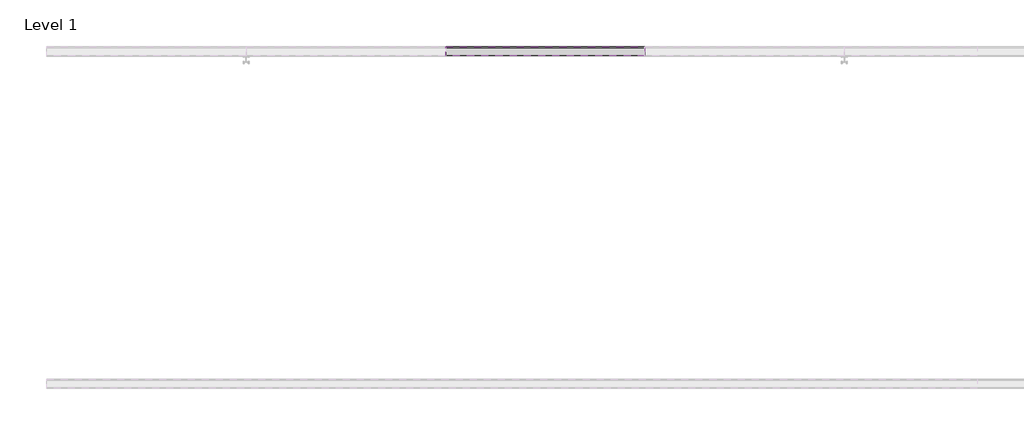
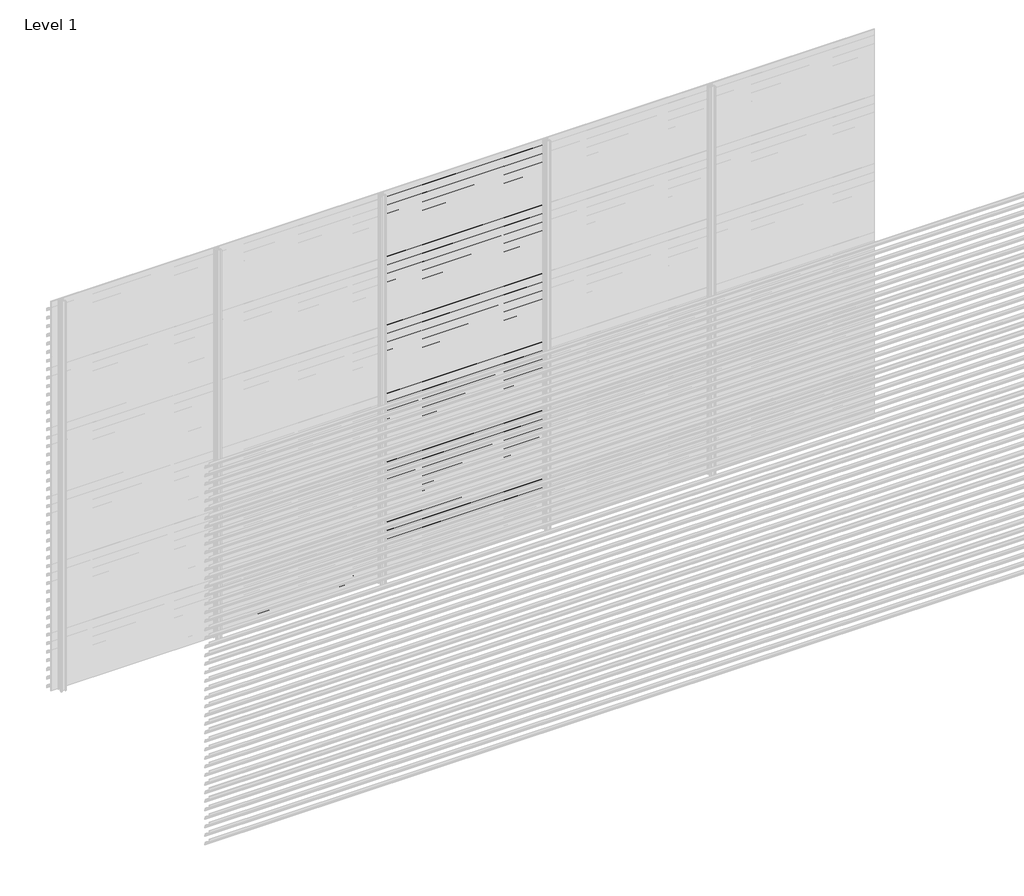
# One storey, part 134 of 540: 43 proxies.
"""IFC4 building model written with IfcOpenShell, lengths in millimetres."""

from ifc_helpers import new_model, si_unit, point, frame, frame_2d, origin, place, context, project, spatial, polyline, circle_curve, trimmed, segment, composite_curve, outline, extrude, element, save

model = new_model("IFC4")

# Units and contexts
model_context = context("Model", 3, world=origin())
ifc_project = project(units=[si_unit("LENGTHUNIT", "METRE", prefix="MILLI")], contexts=[model_context])

# Site, building, storey
site = spatial("IfcSite", under=ifc_project)
building = spatial("IfcBuilding", under=site)
storey = spatial("IfcBuildingStorey", under=building, Name="Level 1", Elevation=0.0)

# Proxies
placement = place(None, origin())
element("IfcBuildingElementProxy", 1, Name="Wall Sweeps", at=placement, inside=storey, context=model_context, shape_type="SweptSolid", body=[
    extrude(outline(composite_curve([segment(trimmed(circle_curve(frame_2d((21513.609548, 61.7676769)), 26.4944656), [point((21530.5717655, 82.1205608))], [point((21540.0540136, 63.3946208))], False, "CARTESIAN"), True, "CONTINUOUS"), segment(polyline([(21540.0540136, 63.3946208), (21540.0540136, 55.5), (21538.8040136, 56.2216933), (21538.8040136, 61.7676769)]), True, "CONTINUOUS"), segment(trimmed(circle_curve(frame_2d((21513.609548, 61.7676769)), 25.1944656), [point((21538.8040136, 61.7676769))], [point((21529.7815085, 81.086807))], True, "CARTESIAN"), True, "CONTINUOUS"), segment(polyline([(21529.7815085, 81.086807), (21485.0540136, 112.3158044), (21485.0540136, 132.0), (21486.3040136, 132.0), (21486.3040136, 113.0285629), (21530.5717655, 82.1205608)]), True, "CONTINUOUS")], self_intersect=False)), frame((90666.6208099, 0.0, 0.0), z_axis=(1.0, 0.0, 0.0), x_axis=(0.0, 1.0, 0.0)), (0.0, 0.0, 1.0), 1199.9999999),
])
element("IfcBuildingElementProxy", 2, Name="Wall Sweeps", at=placement, inside=storey, context=model_context, shape_type="SweptSolid", body=[
    extrude(outline(composite_curve([segment(trimmed(circle_curve(frame_2d((21513.609548, -4.2323231)), 26.4944656), [point((21530.5717655, 16.1205608))], [point((21540.0540136, -2.6053792))], False, "CARTESIAN"), True, "CONTINUOUS"), segment(polyline([(21540.0540136, -2.6053792), (21540.0540136, -10.5), (21538.8040136, -9.7783067), (21538.8040136, -4.2323231)]), True, "CONTINUOUS"), segment(trimmed(circle_curve(frame_2d((21513.609548, -4.2323231)), 25.1944656), [point((21538.8040136, -4.2323231))], [point((21529.7815085, 15.086807))], True, "CARTESIAN"), True, "CONTINUOUS"), segment(polyline([(21529.7815085, 15.086807), (21485.0540136, 46.3158044), (21485.0540136, 66.0), (21486.3040136, 66.0), (21486.3040136, 47.0285629), (21530.5717655, 16.1205608)]), True, "CONTINUOUS")], self_intersect=False)), frame((90666.6208099, 0.0, 0.0), z_axis=(1.0, 0.0, 0.0), x_axis=(0.0, 1.0, 0.0)), (0.0, 0.0, 1.0), 1199.9999999),
])
element("IfcBuildingElementProxy", 3, Name="Wall Sweeps", at=placement, inside=storey, context=model_context, shape_type="SweptSolid", body=[
    extrude(outline(composite_curve([segment(trimmed(circle_curve(frame_2d((21513.609548, 2899.7676769)), 26.4944656), [point((21530.5717655, 2920.1205608))], [point((21540.0540136, 2901.3946208))], False, "CARTESIAN"), True, "CONTINUOUS"), segment(polyline([(21540.0540136, 2901.3946208), (21540.0540136, 2893.5), (21538.8040136, 2894.2216933), (21538.8040136, 2899.7676769)]), True, "CONTINUOUS"), segment(trimmed(circle_curve(frame_2d((21513.609548, 2899.7676769)), 25.1944656), [point((21538.8040136, 2899.7676769))], [point((21529.7815085, 2919.086807))], True, "CARTESIAN"), True, "CONTINUOUS"), segment(polyline([(21529.7815085, 2919.086807), (21485.0540136, 2950.3158044), (21485.0540136, 2970.0), (21486.3040136, 2970.0), (21486.3040136, 2951.0285629), (21530.5717655, 2920.1205608)]), True, "CONTINUOUS")], self_intersect=False)), frame((91866.6208097, 0.0, 0.0), z_axis=(1.0, 0.0, 0.0), x_axis=(0.0, 1.0, 0.0)), (0.0, 0.0, 1.0), 1199.9999999),
])
element("IfcBuildingElementProxy", 4, Name="Wall Sweeps", at=placement, inside=storey, context=model_context, shape_type="SweptSolid", body=[
    extrude(outline(composite_curve([segment(trimmed(circle_curve(frame_2d((21513.609548, 2833.7676769)), 26.4944656), [point((21530.5717655, 2854.1205608))], [point((21540.0540136, 2835.3946208))], False, "CARTESIAN"), True, "CONTINUOUS"), segment(polyline([(21540.0540136, 2835.3946208), (21540.0540136, 2827.5), (21538.8040136, 2828.2216933), (21538.8040136, 2833.7676769)]), True, "CONTINUOUS"), segment(trimmed(circle_curve(frame_2d((21513.609548, 2833.7676769)), 25.1944656), [point((21538.8040136, 2833.7676769))], [point((21529.7815085, 2853.086807))], True, "CARTESIAN"), True, "CONTINUOUS"), segment(polyline([(21529.7815085, 2853.086807), (21485.0540136, 2884.3158044), (21485.0540136, 2904.0), (21486.3040136, 2904.0), (21486.3040136, 2885.0285629), (21530.5717655, 2854.1205608)]), True, "CONTINUOUS")], self_intersect=False)), frame((91866.6208097, 0.0, 0.0), z_axis=(1.0, 0.0, 0.0), x_axis=(0.0, 1.0, 0.0)), (0.0, 0.0, 1.0), 1199.9999999),
])
element("IfcBuildingElementProxy", 5, Name="Wall Sweeps", at=placement, inside=storey, context=model_context, shape_type="SweptSolid", body=[
    extrude(outline(composite_curve([segment(trimmed(circle_curve(frame_2d((21513.609548, 2767.7676769)), 26.4944656), [point((21530.5717655, 2788.1205608))], [point((21540.0540136, 2769.3946208))], False, "CARTESIAN"), True, "CONTINUOUS"), segment(polyline([(21540.0540136, 2769.3946208), (21540.0540136, 2761.5), (21538.8040136, 2762.2216933), (21538.8040136, 2767.7676769)]), True, "CONTINUOUS"), segment(trimmed(circle_curve(frame_2d((21513.609548, 2767.7676769)), 25.1944656), [point((21538.8040136, 2767.7676769))], [point((21529.7815085, 2787.086807))], True, "CARTESIAN"), True, "CONTINUOUS"), segment(polyline([(21529.7815085, 2787.086807), (21485.0540136, 2818.3158044), (21485.0540136, 2838.0), (21486.3040136, 2838.0), (21486.3040136, 2819.0285629), (21530.5717655, 2788.1205608)]), True, "CONTINUOUS")], self_intersect=False)), frame((91866.6208097, 0.0, 0.0), z_axis=(1.0, 0.0, 0.0), x_axis=(0.0, 1.0, 0.0)), (0.0, 0.0, 1.0), 1199.9999999),
])
element("IfcBuildingElementProxy", 6, Name="Wall Sweeps", at=placement, inside=storey, context=model_context, shape_type="SweptSolid", body=[
    extrude(outline(composite_curve([segment(trimmed(circle_curve(frame_2d((21513.609548, 2701.7676769)), 26.4944656), [point((21530.5717655, 2722.1205608))], [point((21540.0540136, 2703.3946208))], False, "CARTESIAN"), True, "CONTINUOUS"), segment(polyline([(21540.0540136, 2703.3946208), (21540.0540136, 2695.5), (21538.8040136, 2696.2216933), (21538.8040136, 2701.7676769)]), True, "CONTINUOUS"), segment(trimmed(circle_curve(frame_2d((21513.609548, 2701.7676769)), 25.1944656), [point((21538.8040136, 2701.7676769))], [point((21529.7815085, 2721.086807))], True, "CARTESIAN"), True, "CONTINUOUS"), segment(polyline([(21529.7815085, 2721.086807), (21485.0540136, 2752.3158044), (21485.0540136, 2772.0), (21486.3040136, 2772.0), (21486.3040136, 2753.0285629), (21530.5717655, 2722.1205608)]), True, "CONTINUOUS")], self_intersect=False)), frame((91866.6208097, 0.0, 0.0), z_axis=(1.0, 0.0, 0.0), x_axis=(0.0, 1.0, 0.0)), (0.0, 0.0, 1.0), 1199.9999999),
])
element("IfcBuildingElementProxy", 7, Name="Wall Sweeps", at=placement, inside=storey, context=model_context, shape_type="SweptSolid", body=[
    extrude(outline(composite_curve([segment(trimmed(circle_curve(frame_2d((21513.609548, 2635.7676769)), 26.4944656), [point((21530.5717655, 2656.1205608))], [point((21540.0540136, 2637.3946208))], False, "CARTESIAN"), True, "CONTINUOUS"), segment(polyline([(21540.0540136, 2637.3946208), (21540.0540136, 2629.5), (21538.8040136, 2630.2216933), (21538.8040136, 2635.7676769)]), True, "CONTINUOUS"), segment(trimmed(circle_curve(frame_2d((21513.609548, 2635.7676769)), 25.1944656), [point((21538.8040136, 2635.7676769))], [point((21529.7815085, 2655.086807))], True, "CARTESIAN"), True, "CONTINUOUS"), segment(polyline([(21529.7815085, 2655.086807), (21485.0540136, 2686.3158044), (21485.0540136, 2706.0), (21486.3040136, 2706.0), (21486.3040136, 2687.0285629), (21530.5717655, 2656.1205608)]), True, "CONTINUOUS")], self_intersect=False)), frame((91866.6208097, 0.0, 0.0), z_axis=(1.0, 0.0, 0.0), x_axis=(0.0, 1.0, 0.0)), (0.0, 0.0, 1.0), 1199.9999999),
])
element("IfcBuildingElementProxy", 8, Name="Wall Sweeps", at=placement, inside=storey, context=model_context, shape_type="SweptSolid", body=[
    extrude(outline(composite_curve([segment(trimmed(circle_curve(frame_2d((21513.609548, 2569.7676769)), 26.4944656), [point((21530.5717655, 2590.1205608))], [point((21540.0540136, 2571.3946208))], False, "CARTESIAN"), True, "CONTINUOUS"), segment(polyline([(21540.0540136, 2571.3946208), (21540.0540136, 2563.5), (21538.8040136, 2564.2216933), (21538.8040136, 2569.7676769)]), True, "CONTINUOUS"), segment(trimmed(circle_curve(frame_2d((21513.609548, 2569.7676769)), 25.1944656), [point((21538.8040136, 2569.7676769))], [point((21529.7815085, 2589.086807))], True, "CARTESIAN"), True, "CONTINUOUS"), segment(polyline([(21529.7815085, 2589.086807), (21485.0540136, 2620.3158044), (21485.0540136, 2640.0), (21486.3040136, 2640.0), (21486.3040136, 2621.0285629), (21530.5717655, 2590.1205608)]), True, "CONTINUOUS")], self_intersect=False)), frame((91866.6208097, 0.0, 0.0), z_axis=(1.0, 0.0, 0.0), x_axis=(0.0, 1.0, 0.0)), (0.0, 0.0, 1.0), 1199.9999999),
])
element("IfcBuildingElementProxy", 9, Name="Wall Sweeps", at=placement, inside=storey, context=model_context, shape_type="SweptSolid", body=[
    extrude(outline(composite_curve([segment(trimmed(circle_curve(frame_2d((21513.609548, 2503.7676769)), 26.4944656), [point((21530.5717655, 2524.1205608))], [point((21540.0540136, 2505.3946208))], False, "CARTESIAN"), True, "CONTINUOUS"), segment(polyline([(21540.0540136, 2505.3946208), (21540.0540136, 2497.5), (21538.8040136, 2498.2216933), (21538.8040136, 2503.7676769)]), True, "CONTINUOUS"), segment(trimmed(circle_curve(frame_2d((21513.609548, 2503.7676769)), 25.1944656), [point((21538.8040136, 2503.7676769))], [point((21529.7815085, 2523.086807))], True, "CARTESIAN"), True, "CONTINUOUS"), segment(polyline([(21529.7815085, 2523.086807), (21485.0540136, 2554.3158044), (21485.0540136, 2574.0), (21486.3040136, 2574.0), (21486.3040136, 2555.0285629), (21530.5717655, 2524.1205608)]), True, "CONTINUOUS")], self_intersect=False)), frame((91866.6208097, 0.0, 0.0), z_axis=(1.0, 0.0, 0.0), x_axis=(0.0, 1.0, 0.0)), (0.0, 0.0, 1.0), 1199.9999999),
])
element("IfcBuildingElementProxy", 10, Name="Wall Sweeps", at=placement, inside=storey, context=model_context, shape_type="SweptSolid", body=[
    extrude(outline(composite_curve([segment(trimmed(circle_curve(frame_2d((21513.609548, 2437.7676769)), 26.4944656), [point((21530.5717655, 2458.1205608))], [point((21540.0540136, 2439.3946208))], False, "CARTESIAN"), True, "CONTINUOUS"), segment(polyline([(21540.0540136, 2439.3946208), (21540.0540136, 2431.5), (21538.8040136, 2432.2216933), (21538.8040136, 2437.7676769)]), True, "CONTINUOUS"), segment(trimmed(circle_curve(frame_2d((21513.609548, 2437.7676769)), 25.1944656), [point((21538.8040136, 2437.7676769))], [point((21529.7815085, 2457.086807))], True, "CARTESIAN"), True, "CONTINUOUS"), segment(polyline([(21529.7815085, 2457.086807), (21485.0540136, 2488.3158044), (21485.0540136, 2508.0), (21486.3040136, 2508.0), (21486.3040136, 2489.0285629), (21530.5717655, 2458.1205608)]), True, "CONTINUOUS")], self_intersect=False)), frame((91866.6208097, 0.0, 0.0), z_axis=(1.0, 0.0, 0.0), x_axis=(0.0, 1.0, 0.0)), (0.0, 0.0, 1.0), 1199.9999999),
])
element("IfcBuildingElementProxy", 11, Name="Wall Sweeps", at=placement, inside=storey, context=model_context, shape_type="SweptSolid", body=[
    extrude(outline(composite_curve([segment(trimmed(circle_curve(frame_2d((21513.609548, 2371.7676769)), 26.4944656), [point((21530.5717655, 2392.1205608))], [point((21540.0540136, 2373.3946208))], False, "CARTESIAN"), True, "CONTINUOUS"), segment(polyline([(21540.0540136, 2373.3946208), (21540.0540136, 2365.5), (21538.8040136, 2366.2216933), (21538.8040136, 2371.7676769)]), True, "CONTINUOUS"), segment(trimmed(circle_curve(frame_2d((21513.609548, 2371.7676769)), 25.1944656), [point((21538.8040136, 2371.7676769))], [point((21529.7815085, 2391.086807))], True, "CARTESIAN"), True, "CONTINUOUS"), segment(polyline([(21529.7815085, 2391.086807), (21485.0540136, 2422.3158044), (21485.0540136, 2442.0), (21486.3040136, 2442.0), (21486.3040136, 2423.0285629), (21530.5717655, 2392.1205608)]), True, "CONTINUOUS")], self_intersect=False)), frame((91866.6208097, 0.0, 0.0), z_axis=(1.0, 0.0, 0.0), x_axis=(0.0, 1.0, 0.0)), (0.0, 0.0, 1.0), 1199.9999999),
])
element("IfcBuildingElementProxy", 12, Name="Wall Sweeps", at=placement, inside=storey, context=model_context, shape_type="SweptSolid", body=[
    extrude(outline(composite_curve([segment(trimmed(circle_curve(frame_2d((21513.609548, 2305.7676769)), 26.4944656), [point((21530.5717655, 2326.1205608))], [point((21540.0540136, 2307.3946208))], False, "CARTESIAN"), True, "CONTINUOUS"), segment(polyline([(21540.0540136, 2307.3946208), (21540.0540136, 2299.5), (21538.8040136, 2300.2216933), (21538.8040136, 2305.7676769)]), True, "CONTINUOUS"), segment(trimmed(circle_curve(frame_2d((21513.609548, 2305.7676769)), 25.1944656), [point((21538.8040136, 2305.7676769))], [point((21529.7815085, 2325.086807))], True, "CARTESIAN"), True, "CONTINUOUS"), segment(polyline([(21529.7815085, 2325.086807), (21485.0540136, 2356.3158044), (21485.0540136, 2376.0), (21486.3040136, 2376.0), (21486.3040136, 2357.0285629), (21530.5717655, 2326.1205608)]), True, "CONTINUOUS")], self_intersect=False)), frame((91866.6208097, 0.0, 0.0), z_axis=(1.0, 0.0, 0.0), x_axis=(0.0, 1.0, 0.0)), (0.0, 0.0, 1.0), 1199.9999999),
])
element("IfcBuildingElementProxy", 13, Name="Wall Sweeps", at=placement, inside=storey, context=model_context, shape_type="SweptSolid", body=[
    extrude(outline(composite_curve([segment(trimmed(circle_curve(frame_2d((21513.609548, 2239.7676769)), 26.4944656), [point((21530.5717655, 2260.1205608))], [point((21540.0540136, 2241.3946208))], False, "CARTESIAN"), True, "CONTINUOUS"), segment(polyline([(21540.0540136, 2241.3946208), (21540.0540136, 2233.5), (21538.8040136, 2234.2216933), (21538.8040136, 2239.7676769)]), True, "CONTINUOUS"), segment(trimmed(circle_curve(frame_2d((21513.609548, 2239.7676769)), 25.1944656), [point((21538.8040136, 2239.7676769))], [point((21529.7815085, 2259.086807))], True, "CARTESIAN"), True, "CONTINUOUS"), segment(polyline([(21529.7815085, 2259.086807), (21485.0540136, 2290.3158044), (21485.0540136, 2310.0), (21486.3040136, 2310.0), (21486.3040136, 2291.0285629), (21530.5717655, 2260.1205608)]), True, "CONTINUOUS")], self_intersect=False)), frame((91866.6208097, 0.0, 0.0), z_axis=(1.0, 0.0, 0.0), x_axis=(0.0, 1.0, 0.0)), (0.0, 0.0, 1.0), 1199.9999999),
])
element("IfcBuildingElementProxy", 14, Name="Wall Sweeps", at=placement, inside=storey, context=model_context, shape_type="SweptSolid", body=[
    extrude(outline(composite_curve([segment(trimmed(circle_curve(frame_2d((21513.609548, 2173.7676769)), 26.4944656), [point((21530.5717655, 2194.1205608))], [point((21540.0540136, 2175.3946208))], False, "CARTESIAN"), True, "CONTINUOUS"), segment(polyline([(21540.0540136, 2175.3946208), (21540.0540136, 2167.5), (21538.8040136, 2168.2216933), (21538.8040136, 2173.7676769)]), True, "CONTINUOUS"), segment(trimmed(circle_curve(frame_2d((21513.609548, 2173.7676769)), 25.1944656), [point((21538.8040136, 2173.7676769))], [point((21529.7815085, 2193.086807))], True, "CARTESIAN"), True, "CONTINUOUS"), segment(polyline([(21529.7815085, 2193.086807), (21485.0540136, 2224.3158044), (21485.0540136, 2244.0), (21486.3040136, 2244.0), (21486.3040136, 2225.0285629), (21530.5717655, 2194.1205608)]), True, "CONTINUOUS")], self_intersect=False)), frame((91866.6208097, 0.0, 0.0), z_axis=(1.0, 0.0, 0.0), x_axis=(0.0, 1.0, 0.0)), (0.0, 0.0, 1.0), 1199.9999999),
])
element("IfcBuildingElementProxy", 15, Name="Wall Sweeps", at=placement, inside=storey, context=model_context, shape_type="SweptSolid", body=[
    extrude(outline(composite_curve([segment(trimmed(circle_curve(frame_2d((21513.609548, 2107.7676769)), 26.4944656), [point((21530.5717655, 2128.1205608))], [point((21540.0540136, 2109.3946208))], False, "CARTESIAN"), True, "CONTINUOUS"), segment(polyline([(21540.0540136, 2109.3946208), (21540.0540136, 2101.5), (21538.8040136, 2102.2216933), (21538.8040136, 2107.7676769)]), True, "CONTINUOUS"), segment(trimmed(circle_curve(frame_2d((21513.609548, 2107.7676769)), 25.1944656), [point((21538.8040136, 2107.7676769))], [point((21529.7815085, 2127.086807))], True, "CARTESIAN"), True, "CONTINUOUS"), segment(polyline([(21529.7815085, 2127.086807), (21485.0540136, 2158.3158044), (21485.0540136, 2178.0), (21486.3040136, 2178.0), (21486.3040136, 2159.0285629), (21530.5717655, 2128.1205608)]), True, "CONTINUOUS")], self_intersect=False)), frame((91866.6208097, 0.0, 0.0), z_axis=(1.0, 0.0, 0.0), x_axis=(0.0, 1.0, 0.0)), (0.0, 0.0, 1.0), 1199.9999999),
])
element("IfcBuildingElementProxy", 16, Name="Wall Sweeps", at=placement, inside=storey, context=model_context, shape_type="SweptSolid", body=[
    extrude(outline(composite_curve([segment(trimmed(circle_curve(frame_2d((21513.609548, 2041.7676769)), 26.4944656), [point((21530.5717655, 2062.1205608))], [point((21540.0540136, 2043.3946208))], False, "CARTESIAN"), True, "CONTINUOUS"), segment(polyline([(21540.0540136, 2043.3946208), (21540.0540136, 2035.5), (21538.8040136, 2036.2216933), (21538.8040136, 2041.7676769)]), True, "CONTINUOUS"), segment(trimmed(circle_curve(frame_2d((21513.609548, 2041.7676769)), 25.1944656), [point((21538.8040136, 2041.7676769))], [point((21529.7815085, 2061.086807))], True, "CARTESIAN"), True, "CONTINUOUS"), segment(polyline([(21529.7815085, 2061.086807), (21485.0540136, 2092.3158044), (21485.0540136, 2112.0), (21486.3040136, 2112.0), (21486.3040136, 2093.0285629), (21530.5717655, 2062.1205608)]), True, "CONTINUOUS")], self_intersect=False)), frame((91866.6208097, 0.0, 0.0), z_axis=(1.0, 0.0, 0.0), x_axis=(0.0, 1.0, 0.0)), (0.0, 0.0, 1.0), 1199.9999999),
])
element("IfcBuildingElementProxy", 17, Name="Wall Sweeps", at=placement, inside=storey, context=model_context, shape_type="SweptSolid", body=[
    extrude(outline(composite_curve([segment(trimmed(circle_curve(frame_2d((21513.609548, 1975.7676769)), 26.4944656), [point((21530.5717655, 1996.1205608))], [point((21540.0540136, 1977.3946208))], False, "CARTESIAN"), True, "CONTINUOUS"), segment(polyline([(21540.0540136, 1977.3946208), (21540.0540136, 1969.5), (21538.8040136, 1970.2216933), (21538.8040136, 1975.7676769)]), True, "CONTINUOUS"), segment(trimmed(circle_curve(frame_2d((21513.609548, 1975.7676769)), 25.1944656), [point((21538.8040136, 1975.7676769))], [point((21529.7815085, 1995.086807))], True, "CARTESIAN"), True, "CONTINUOUS"), segment(polyline([(21529.7815085, 1995.086807), (21485.0540136, 2026.3158044), (21485.0540136, 2046.0), (21486.3040136, 2046.0), (21486.3040136, 2027.0285629), (21530.5717655, 1996.1205608)]), True, "CONTINUOUS")], self_intersect=False)), frame((91866.6208097, 0.0, 0.0), z_axis=(1.0, 0.0, 0.0), x_axis=(0.0, 1.0, 0.0)), (0.0, 0.0, 1.0), 1199.9999999),
])
element("IfcBuildingElementProxy", 18, Name="Wall Sweeps", at=placement, inside=storey, context=model_context, shape_type="SweptSolid", body=[
    extrude(outline(composite_curve([segment(trimmed(circle_curve(frame_2d((21513.609548, 1909.7676769)), 26.4944656), [point((21530.5717655, 1930.1205608))], [point((21540.0540136, 1911.3946208))], False, "CARTESIAN"), True, "CONTINUOUS"), segment(polyline([(21540.0540136, 1911.3946208), (21540.0540136, 1903.5), (21538.8040136, 1904.2216933), (21538.8040136, 1909.7676769)]), True, "CONTINUOUS"), segment(trimmed(circle_curve(frame_2d((21513.609548, 1909.7676769)), 25.1944656), [point((21538.8040136, 1909.7676769))], [point((21529.7815085, 1929.086807))], True, "CARTESIAN"), True, "CONTINUOUS"), segment(polyline([(21529.7815085, 1929.086807), (21485.0540136, 1960.3158044), (21485.0540136, 1980.0), (21486.3040136, 1980.0), (21486.3040136, 1961.0285629), (21530.5717655, 1930.1205608)]), True, "CONTINUOUS")], self_intersect=False)), frame((91866.6208097, 0.0, 0.0), z_axis=(1.0, 0.0, 0.0), x_axis=(0.0, 1.0, 0.0)), (0.0, 0.0, 1.0), 1199.9999999),
])
element("IfcBuildingElementProxy", 19, Name="Wall Sweeps", at=placement, inside=storey, context=model_context, shape_type="SweptSolid", body=[
    extrude(outline(composite_curve([segment(trimmed(circle_curve(frame_2d((21513.609548, 1843.7676769)), 26.4944656), [point((21530.5717655, 1864.1205608))], [point((21540.0540136, 1845.3946208))], False, "CARTESIAN"), True, "CONTINUOUS"), segment(polyline([(21540.0540136, 1845.3946208), (21540.0540136, 1837.5), (21538.8040136, 1838.2216933), (21538.8040136, 1843.7676769)]), True, "CONTINUOUS"), segment(trimmed(circle_curve(frame_2d((21513.609548, 1843.7676769)), 25.1944656), [point((21538.8040136, 1843.7676769))], [point((21529.7815085, 1863.086807))], True, "CARTESIAN"), True, "CONTINUOUS"), segment(polyline([(21529.7815085, 1863.086807), (21485.0540136, 1894.3158044), (21485.0540136, 1914.0), (21486.3040136, 1914.0), (21486.3040136, 1895.0285629), (21530.5717655, 1864.1205608)]), True, "CONTINUOUS")], self_intersect=False)), frame((91866.6208097, 0.0, 0.0), z_axis=(1.0, 0.0, 0.0), x_axis=(0.0, 1.0, 0.0)), (0.0, 0.0, 1.0), 1199.9999999),
])
element("IfcBuildingElementProxy", 20, Name="Wall Sweeps", at=placement, inside=storey, context=model_context, shape_type="SweptSolid", body=[
    extrude(outline(composite_curve([segment(trimmed(circle_curve(frame_2d((21513.609548, 1777.7676769)), 26.4944656), [point((21530.5717655, 1798.1205608))], [point((21540.0540136, 1779.3946208))], False, "CARTESIAN"), True, "CONTINUOUS"), segment(polyline([(21540.0540136, 1779.3946208), (21540.0540136, 1771.5), (21538.8040136, 1772.2216933), (21538.8040136, 1777.7676769)]), True, "CONTINUOUS"), segment(trimmed(circle_curve(frame_2d((21513.609548, 1777.7676769)), 25.1944656), [point((21538.8040136, 1777.7676769))], [point((21529.7815085, 1797.086807))], True, "CARTESIAN"), True, "CONTINUOUS"), segment(polyline([(21529.7815085, 1797.086807), (21485.0540136, 1828.3158044), (21485.0540136, 1848.0), (21486.3040136, 1848.0), (21486.3040136, 1829.0285629), (21530.5717655, 1798.1205608)]), True, "CONTINUOUS")], self_intersect=False)), frame((91866.6208097, 0.0, 0.0), z_axis=(1.0, 0.0, 0.0), x_axis=(0.0, 1.0, 0.0)), (0.0, 0.0, 1.0), 1199.9999999),
])
element("IfcBuildingElementProxy", 21, Name="Wall Sweeps", at=placement, inside=storey, context=model_context, shape_type="SweptSolid", body=[
    extrude(outline(composite_curve([segment(trimmed(circle_curve(frame_2d((21513.609548, 1711.7676769)), 26.4944656), [point((21530.5717655, 1732.1205608))], [point((21540.0540136, 1713.3946208))], False, "CARTESIAN"), True, "CONTINUOUS"), segment(polyline([(21540.0540136, 1713.3946208), (21540.0540136, 1705.5), (21538.8040136, 1706.2216933), (21538.8040136, 1711.7676769)]), True, "CONTINUOUS"), segment(trimmed(circle_curve(frame_2d((21513.609548, 1711.7676769)), 25.1944656), [point((21538.8040136, 1711.7676769))], [point((21529.7815085, 1731.086807))], True, "CARTESIAN"), True, "CONTINUOUS"), segment(polyline([(21529.7815085, 1731.086807), (21485.0540136, 1762.3158044), (21485.0540136, 1782.0), (21486.3040136, 1782.0), (21486.3040136, 1763.0285629), (21530.5717655, 1732.1205608)]), True, "CONTINUOUS")], self_intersect=False)), frame((91866.6208097, 0.0, 0.0), z_axis=(1.0, 0.0, 0.0), x_axis=(0.0, 1.0, 0.0)), (0.0, 0.0, 1.0), 1199.9999999),
])
element("IfcBuildingElementProxy", 22, Name="Wall Sweeps", at=placement, inside=storey, context=model_context, shape_type="SweptSolid", body=[
    extrude(outline(composite_curve([segment(trimmed(circle_curve(frame_2d((21513.609548, 1645.7676769)), 26.4944656), [point((21530.5717655, 1666.1205608))], [point((21540.0540136, 1647.3946208))], False, "CARTESIAN"), True, "CONTINUOUS"), segment(polyline([(21540.0540136, 1647.3946208), (21540.0540136, 1639.5), (21538.8040136, 1640.2216933), (21538.8040136, 1645.7676769)]), True, "CONTINUOUS"), segment(trimmed(circle_curve(frame_2d((21513.609548, 1645.7676769)), 25.1944656), [point((21538.8040136, 1645.7676769))], [point((21529.7815085, 1665.086807))], True, "CARTESIAN"), True, "CONTINUOUS"), segment(polyline([(21529.7815085, 1665.086807), (21485.0540136, 1696.3158044), (21485.0540136, 1716.0), (21486.3040136, 1716.0), (21486.3040136, 1697.0285629), (21530.5717655, 1666.1205608)]), True, "CONTINUOUS")], self_intersect=False)), frame((91866.6208097, 0.0, 0.0), z_axis=(1.0, 0.0, 0.0), x_axis=(0.0, 1.0, 0.0)), (0.0, 0.0, 1.0), 1199.9999999),
])
element("IfcBuildingElementProxy", 23, Name="Wall Sweeps", at=placement, inside=storey, context=model_context, shape_type="SweptSolid", body=[
    extrude(outline(composite_curve([segment(trimmed(circle_curve(frame_2d((21513.609548, 1579.7676769)), 26.4944656), [point((21530.5717655, 1600.1205608))], [point((21540.0540136, 1581.3946208))], False, "CARTESIAN"), True, "CONTINUOUS"), segment(polyline([(21540.0540136, 1581.3946208), (21540.0540136, 1573.5), (21538.8040136, 1574.2216933), (21538.8040136, 1579.7676769)]), True, "CONTINUOUS"), segment(trimmed(circle_curve(frame_2d((21513.609548, 1579.7676769)), 25.1944656), [point((21538.8040136, 1579.7676769))], [point((21529.7815085, 1599.086807))], True, "CARTESIAN"), True, "CONTINUOUS"), segment(polyline([(21529.7815085, 1599.086807), (21485.0540136, 1630.3158044), (21485.0540136, 1650.0), (21486.3040136, 1650.0), (21486.3040136, 1631.0285629), (21530.5717655, 1600.1205608)]), True, "CONTINUOUS")], self_intersect=False)), frame((91866.6208097, 0.0, 0.0), z_axis=(1.0, 0.0, 0.0), x_axis=(0.0, 1.0, 0.0)), (0.0, 0.0, 1.0), 1199.9999999),
])
element("IfcBuildingElementProxy", 24, Name="Wall Sweeps", at=placement, inside=storey, context=model_context, shape_type="SweptSolid", body=[
    extrude(outline(composite_curve([segment(trimmed(circle_curve(frame_2d((21513.609548, 1513.7676769)), 26.4944656), [point((21530.5717655, 1534.1205608))], [point((21540.0540136, 1515.3946208))], False, "CARTESIAN"), True, "CONTINUOUS"), segment(polyline([(21540.0540136, 1515.3946208), (21540.0540136, 1507.5), (21538.8040136, 1508.2216933), (21538.8040136, 1513.7676769)]), True, "CONTINUOUS"), segment(trimmed(circle_curve(frame_2d((21513.609548, 1513.7676769)), 25.1944656), [point((21538.8040136, 1513.7676769))], [point((21529.7815085, 1533.086807))], True, "CARTESIAN"), True, "CONTINUOUS"), segment(polyline([(21529.7815085, 1533.086807), (21485.0540136, 1564.3158044), (21485.0540136, 1584.0), (21486.3040136, 1584.0), (21486.3040136, 1565.0285629), (21530.5717655, 1534.1205608)]), True, "CONTINUOUS")], self_intersect=False)), frame((91866.6208097, 0.0, 0.0), z_axis=(1.0, 0.0, 0.0), x_axis=(0.0, 1.0, 0.0)), (0.0, 0.0, 1.0), 1199.9999999),
])
element("IfcBuildingElementProxy", 25, Name="Wall Sweeps", at=placement, inside=storey, context=model_context, shape_type="SweptSolid", body=[
    extrude(outline(composite_curve([segment(trimmed(circle_curve(frame_2d((21513.609548, 1447.7676769)), 26.4944656), [point((21530.5717655, 1468.1205608))], [point((21540.0540136, 1449.3946208))], False, "CARTESIAN"), True, "CONTINUOUS"), segment(polyline([(21540.0540136, 1449.3946208), (21540.0540136, 1441.5), (21538.8040136, 1442.2216933), (21538.8040136, 1447.7676769)]), True, "CONTINUOUS"), segment(trimmed(circle_curve(frame_2d((21513.609548, 1447.7676769)), 25.1944656), [point((21538.8040136, 1447.7676769))], [point((21529.7815085, 1467.086807))], True, "CARTESIAN"), True, "CONTINUOUS"), segment(polyline([(21529.7815085, 1467.086807), (21485.0540136, 1498.3158044), (21485.0540136, 1518.0), (21486.3040136, 1518.0), (21486.3040136, 1499.0285629), (21530.5717655, 1468.1205608)]), True, "CONTINUOUS")], self_intersect=False)), frame((91866.6208097, 0.0, 0.0), z_axis=(1.0, 0.0, 0.0), x_axis=(0.0, 1.0, 0.0)), (0.0, 0.0, 1.0), 1199.9999999),
])
element("IfcBuildingElementProxy", 26, Name="Wall Sweeps", at=placement, inside=storey, context=model_context, shape_type="SweptSolid", body=[
    extrude(outline(composite_curve([segment(trimmed(circle_curve(frame_2d((21513.609548, 1381.7676769)), 26.4944656), [point((21530.5717655, 1402.1205608))], [point((21540.0540136, 1383.3946208))], False, "CARTESIAN"), True, "CONTINUOUS"), segment(polyline([(21540.0540136, 1383.3946208), (21540.0540136, 1375.5), (21538.8040136, 1376.2216933), (21538.8040136, 1381.7676769)]), True, "CONTINUOUS"), segment(trimmed(circle_curve(frame_2d((21513.609548, 1381.7676769)), 25.1944656), [point((21538.8040136, 1381.7676769))], [point((21529.7815085, 1401.086807))], True, "CARTESIAN"), True, "CONTINUOUS"), segment(polyline([(21529.7815085, 1401.086807), (21485.0540136, 1432.3158044), (21485.0540136, 1452.0), (21486.3040136, 1452.0), (21486.3040136, 1433.0285629), (21530.5717655, 1402.1205608)]), True, "CONTINUOUS")], self_intersect=False)), frame((91866.6208097, 0.0, 0.0), z_axis=(1.0, 0.0, 0.0), x_axis=(0.0, 1.0, 0.0)), (0.0, 0.0, 1.0), 1199.9999999),
])
element("IfcBuildingElementProxy", 27, Name="Wall Sweeps", at=placement, inside=storey, context=model_context, shape_type="SweptSolid", body=[
    extrude(outline(composite_curve([segment(trimmed(circle_curve(frame_2d((21513.609548, 1315.7676769)), 26.4944656), [point((21530.5717655, 1336.1205608))], [point((21540.0540136, 1317.3946208))], False, "CARTESIAN"), True, "CONTINUOUS"), segment(polyline([(21540.0540136, 1317.3946208), (21540.0540136, 1309.5), (21538.8040136, 1310.2216933), (21538.8040136, 1315.7676769)]), True, "CONTINUOUS"), segment(trimmed(circle_curve(frame_2d((21513.609548, 1315.7676769)), 25.1944656), [point((21538.8040136, 1315.7676769))], [point((21529.7815085, 1335.086807))], True, "CARTESIAN"), True, "CONTINUOUS"), segment(polyline([(21529.7815085, 1335.086807), (21485.0540136, 1366.3158044), (21485.0540136, 1386.0), (21486.3040136, 1386.0), (21486.3040136, 1367.0285629), (21530.5717655, 1336.1205608)]), True, "CONTINUOUS")], self_intersect=False)), frame((91866.6208097, 0.0, 0.0), z_axis=(1.0, 0.0, 0.0), x_axis=(0.0, 1.0, 0.0)), (0.0, 0.0, 1.0), 1199.9999999),
])
element("IfcBuildingElementProxy", 28, Name="Wall Sweeps", at=placement, inside=storey, context=model_context, shape_type="SweptSolid", body=[
    extrude(outline(composite_curve([segment(trimmed(circle_curve(frame_2d((21513.609548, 1249.7676769)), 26.4944656), [point((21530.5717655, 1270.1205608))], [point((21540.0540136, 1251.3946208))], False, "CARTESIAN"), True, "CONTINUOUS"), segment(polyline([(21540.0540136, 1251.3946208), (21540.0540136, 1243.5), (21538.8040136, 1244.2216933), (21538.8040136, 1249.7676769)]), True, "CONTINUOUS"), segment(trimmed(circle_curve(frame_2d((21513.609548, 1249.7676769)), 25.1944656), [point((21538.8040136, 1249.7676769))], [point((21529.7815085, 1269.086807))], True, "CARTESIAN"), True, "CONTINUOUS"), segment(polyline([(21529.7815085, 1269.086807), (21485.0540136, 1300.3158044), (21485.0540136, 1320.0), (21486.3040136, 1320.0), (21486.3040136, 1301.0285629), (21530.5717655, 1270.1205608)]), True, "CONTINUOUS")], self_intersect=False)), frame((91866.6208097, 0.0, 0.0), z_axis=(1.0, 0.0, 0.0), x_axis=(0.0, 1.0, 0.0)), (0.0, 0.0, 1.0), 1199.9999999),
])
element("IfcBuildingElementProxy", 29, Name="Wall Sweeps", at=placement, inside=storey, context=model_context, shape_type="SweptSolid", body=[
    extrude(outline(composite_curve([segment(trimmed(circle_curve(frame_2d((21513.609548, 1183.7676769)), 26.4944656), [point((21530.5717655, 1204.1205608))], [point((21540.0540136, 1185.3946208))], False, "CARTESIAN"), True, "CONTINUOUS"), segment(polyline([(21540.0540136, 1185.3946208), (21540.0540136, 1177.5), (21538.8040136, 1178.2216933), (21538.8040136, 1183.7676769)]), True, "CONTINUOUS"), segment(trimmed(circle_curve(frame_2d((21513.609548, 1183.7676769)), 25.1944656), [point((21538.8040136, 1183.7676769))], [point((21529.7815085, 1203.086807))], True, "CARTESIAN"), True, "CONTINUOUS"), segment(polyline([(21529.7815085, 1203.086807), (21485.0540136, 1234.3158044), (21485.0540136, 1254.0), (21486.3040136, 1254.0), (21486.3040136, 1235.0285629), (21530.5717655, 1204.1205608)]), True, "CONTINUOUS")], self_intersect=False)), frame((91866.6208097, 0.0, 0.0), z_axis=(1.0, 0.0, 0.0), x_axis=(0.0, 1.0, 0.0)), (0.0, 0.0, 1.0), 1199.9999999),
])
element("IfcBuildingElementProxy", 30, Name="Wall Sweeps", at=placement, inside=storey, context=model_context, shape_type="SweptSolid", body=[
    extrude(outline(composite_curve([segment(trimmed(circle_curve(frame_2d((21513.609548, 1117.7676769)), 26.4944656), [point((21530.5717655, 1138.1205608))], [point((21540.0540136, 1119.3946208))], False, "CARTESIAN"), True, "CONTINUOUS"), segment(polyline([(21540.0540136, 1119.3946208), (21540.0540136, 1111.5), (21538.8040136, 1112.2216933), (21538.8040136, 1117.7676769)]), True, "CONTINUOUS"), segment(trimmed(circle_curve(frame_2d((21513.609548, 1117.7676769)), 25.1944656), [point((21538.8040136, 1117.7676769))], [point((21529.7815085, 1137.086807))], True, "CARTESIAN"), True, "CONTINUOUS"), segment(polyline([(21529.7815085, 1137.086807), (21485.0540136, 1168.3158044), (21485.0540136, 1188.0), (21486.3040136, 1188.0), (21486.3040136, 1169.0285629), (21530.5717655, 1138.1205608)]), True, "CONTINUOUS")], self_intersect=False)), frame((91866.6208097, 0.0, 0.0), z_axis=(1.0, 0.0, 0.0), x_axis=(0.0, 1.0, 0.0)), (0.0, 0.0, 1.0), 1199.9999999),
])
element("IfcBuildingElementProxy", 31, Name="Wall Sweeps", at=placement, inside=storey, context=model_context, shape_type="SweptSolid", body=[
    extrude(outline(composite_curve([segment(trimmed(circle_curve(frame_2d((21513.609548, 1051.7676769)), 26.4944656), [point((21530.5717655, 1072.1205608))], [point((21540.0540136, 1053.3946208))], False, "CARTESIAN"), True, "CONTINUOUS"), segment(polyline([(21540.0540136, 1053.3946208), (21540.0540136, 1045.5), (21538.8040136, 1046.2216933), (21538.8040136, 1051.7676769)]), True, "CONTINUOUS"), segment(trimmed(circle_curve(frame_2d((21513.609548, 1051.7676769)), 25.1944656), [point((21538.8040136, 1051.7676769))], [point((21529.7815085, 1071.086807))], True, "CARTESIAN"), True, "CONTINUOUS"), segment(polyline([(21529.7815085, 1071.086807), (21485.0540136, 1102.3158044), (21485.0540136, 1122.0), (21486.3040136, 1122.0), (21486.3040136, 1103.0285629), (21530.5717655, 1072.1205608)]), True, "CONTINUOUS")], self_intersect=False)), frame((91866.6208097, 0.0, 0.0), z_axis=(1.0, 0.0, 0.0), x_axis=(0.0, 1.0, 0.0)), (0.0, 0.0, 1.0), 1199.9999999),
])
element("IfcBuildingElementProxy", 32, Name="Wall Sweeps", at=placement, inside=storey, context=model_context, shape_type="SweptSolid", body=[
    extrude(outline(composite_curve([segment(trimmed(circle_curve(frame_2d((21513.609548, 985.7676769)), 26.4944656), [point((21530.5717655, 1006.1205608))], [point((21540.0540136, 987.3946208))], False, "CARTESIAN"), True, "CONTINUOUS"), segment(polyline([(21540.0540136, 987.3946208), (21540.0540136, 979.5), (21538.8040136, 980.2216933), (21538.8040136, 985.7676769)]), True, "CONTINUOUS"), segment(trimmed(circle_curve(frame_2d((21513.609548, 985.7676769)), 25.1944656), [point((21538.8040136, 985.7676769))], [point((21529.7815085, 1005.086807))], True, "CARTESIAN"), True, "CONTINUOUS"), segment(polyline([(21529.7815085, 1005.086807), (21485.0540136, 1036.3158044), (21485.0540136, 1056.0), (21486.3040136, 1056.0), (21486.3040136, 1037.0285629), (21530.5717655, 1006.1205608)]), True, "CONTINUOUS")], self_intersect=False)), frame((91866.6208097, 0.0, 0.0), z_axis=(1.0, 0.0, 0.0), x_axis=(0.0, 1.0, 0.0)), (0.0, 0.0, 1.0), 1199.9999999),
])
element("IfcBuildingElementProxy", 33, Name="Wall Sweeps", at=placement, inside=storey, context=model_context, shape_type="SweptSolid", body=[
    extrude(outline(composite_curve([segment(trimmed(circle_curve(frame_2d((21513.609548, 919.7676769)), 26.4944656), [point((21530.5717655, 940.1205608))], [point((21540.0540136, 921.3946208))], False, "CARTESIAN"), True, "CONTINUOUS"), segment(polyline([(21540.0540136, 921.3946208), (21540.0540136, 913.5), (21538.8040136, 914.2216933), (21538.8040136, 919.7676769)]), True, "CONTINUOUS"), segment(trimmed(circle_curve(frame_2d((21513.609548, 919.7676769)), 25.1944656), [point((21538.8040136, 919.7676769))], [point((21529.7815085, 939.086807))], True, "CARTESIAN"), True, "CONTINUOUS"), segment(polyline([(21529.7815085, 939.086807), (21485.0540136, 970.3158044), (21485.0540136, 990.0), (21486.3040136, 990.0), (21486.3040136, 971.0285629), (21530.5717655, 940.1205608)]), True, "CONTINUOUS")], self_intersect=False)), frame((91866.6208097, 0.0, 0.0), z_axis=(1.0, 0.0, 0.0), x_axis=(0.0, 1.0, 0.0)), (0.0, 0.0, 1.0), 1199.9999999),
])
element("IfcBuildingElementProxy", 34, Name="Wall Sweeps", at=placement, inside=storey, context=model_context, shape_type="SweptSolid", body=[
    extrude(outline(composite_curve([segment(trimmed(circle_curve(frame_2d((21513.609548, 853.7676769)), 26.4944656), [point((21530.5717655, 874.1205608))], [point((21540.0540136, 855.3946208))], False, "CARTESIAN"), True, "CONTINUOUS"), segment(polyline([(21540.0540136, 855.3946208), (21540.0540136, 847.5), (21538.8040136, 848.2216933), (21538.8040136, 853.7676769)]), True, "CONTINUOUS"), segment(trimmed(circle_curve(frame_2d((21513.609548, 853.7676769)), 25.1944656), [point((21538.8040136, 853.7676769))], [point((21529.7815085, 873.086807))], True, "CARTESIAN"), True, "CONTINUOUS"), segment(polyline([(21529.7815085, 873.086807), (21485.0540136, 904.3158044), (21485.0540136, 924.0), (21486.3040136, 924.0), (21486.3040136, 905.0285629), (21530.5717655, 874.1205608)]), True, "CONTINUOUS")], self_intersect=False)), frame((91866.6208097, 0.0, 0.0), z_axis=(1.0, 0.0, 0.0), x_axis=(0.0, 1.0, 0.0)), (0.0, 0.0, 1.0), 1199.9999999),
])
element("IfcBuildingElementProxy", 35, Name="Wall Sweeps", at=placement, inside=storey, context=model_context, shape_type="SweptSolid", body=[
    extrude(outline(composite_curve([segment(trimmed(circle_curve(frame_2d((21513.609548, 787.7676769)), 26.4944656), [point((21530.5717655, 808.1205608))], [point((21540.0540136, 789.3946208))], False, "CARTESIAN"), True, "CONTINUOUS"), segment(polyline([(21540.0540136, 789.3946208), (21540.0540136, 781.5), (21538.8040136, 782.2216933), (21538.8040136, 787.7676769)]), True, "CONTINUOUS"), segment(trimmed(circle_curve(frame_2d((21513.609548, 787.7676769)), 25.1944656), [point((21538.8040136, 787.7676769))], [point((21529.7815085, 807.086807))], True, "CARTESIAN"), True, "CONTINUOUS"), segment(polyline([(21529.7815085, 807.086807), (21485.0540136, 838.3158044), (21485.0540136, 858.0), (21486.3040136, 858.0), (21486.3040136, 839.0285629), (21530.5717655, 808.1205608)]), True, "CONTINUOUS")], self_intersect=False)), frame((91866.6208097, 0.0, 0.0), z_axis=(1.0, 0.0, 0.0), x_axis=(0.0, 1.0, 0.0)), (0.0, 0.0, 1.0), 1199.9999999),
])
element("IfcBuildingElementProxy", 36, Name="Wall Sweeps", at=placement, inside=storey, context=model_context, shape_type="SweptSolid", body=[
    extrude(outline(composite_curve([segment(trimmed(circle_curve(frame_2d((21513.609548, 721.7676769)), 26.4944656), [point((21530.5717655, 742.1205608))], [point((21540.0540136, 723.3946208))], False, "CARTESIAN"), True, "CONTINUOUS"), segment(polyline([(21540.0540136, 723.3946208), (21540.0540136, 715.5), (21538.8040136, 716.2216933), (21538.8040136, 721.7676769)]), True, "CONTINUOUS"), segment(trimmed(circle_curve(frame_2d((21513.609548, 721.7676769)), 25.1944656), [point((21538.8040136, 721.7676769))], [point((21529.7815085, 741.086807))], True, "CARTESIAN"), True, "CONTINUOUS"), segment(polyline([(21529.7815085, 741.086807), (21485.0540136, 772.3158044), (21485.0540136, 792.0), (21486.3040136, 792.0), (21486.3040136, 773.0285629), (21530.5717655, 742.1205608)]), True, "CONTINUOUS")], self_intersect=False)), frame((91866.6208097, 0.0, 0.0), z_axis=(1.0, 0.0, 0.0), x_axis=(0.0, 1.0, 0.0)), (0.0, 0.0, 1.0), 1199.9999999),
])
element("IfcBuildingElementProxy", 37, Name="Wall Sweeps", at=placement, inside=storey, context=model_context, shape_type="SweptSolid", body=[
    extrude(outline(composite_curve([segment(trimmed(circle_curve(frame_2d((21513.609548, 655.7676769)), 26.4944656), [point((21530.5717655, 676.1205608))], [point((21540.0540136, 657.3946208))], False, "CARTESIAN"), True, "CONTINUOUS"), segment(polyline([(21540.0540136, 657.3946208), (21540.0540136, 649.5), (21538.8040136, 650.2216933), (21538.8040136, 655.7676769)]), True, "CONTINUOUS"), segment(trimmed(circle_curve(frame_2d((21513.609548, 655.7676769)), 25.1944656), [point((21538.8040136, 655.7676769))], [point((21529.7815085, 675.086807))], True, "CARTESIAN"), True, "CONTINUOUS"), segment(polyline([(21529.7815085, 675.086807), (21485.0540136, 706.3158044), (21485.0540136, 726.0), (21486.3040136, 726.0), (21486.3040136, 707.0285629), (21530.5717655, 676.1205608)]), True, "CONTINUOUS")], self_intersect=False)), frame((91866.6208097, 0.0, 0.0), z_axis=(1.0, 0.0, 0.0), x_axis=(0.0, 1.0, 0.0)), (0.0, 0.0, 1.0), 1199.9999999),
])
element("IfcBuildingElementProxy", 38, Name="Wall Sweeps", at=placement, inside=storey, context=model_context, shape_type="SweptSolid", body=[
    extrude(outline(composite_curve([segment(trimmed(circle_curve(frame_2d((21513.609548, 589.7676769)), 26.4944656), [point((21530.5717655, 610.1205608))], [point((21540.0540136, 591.3946208))], False, "CARTESIAN"), True, "CONTINUOUS"), segment(polyline([(21540.0540136, 591.3946208), (21540.0540136, 583.5), (21538.8040136, 584.2216933), (21538.8040136, 589.7676769)]), True, "CONTINUOUS"), segment(trimmed(circle_curve(frame_2d((21513.609548, 589.7676769)), 25.1944656), [point((21538.8040136, 589.7676769))], [point((21529.7815085, 609.086807))], True, "CARTESIAN"), True, "CONTINUOUS"), segment(polyline([(21529.7815085, 609.086807), (21485.0540136, 640.3158044), (21485.0540136, 660.0), (21486.3040136, 660.0), (21486.3040136, 641.0285629), (21530.5717655, 610.1205608)]), True, "CONTINUOUS")], self_intersect=False)), frame((91866.6208097, 0.0, 0.0), z_axis=(1.0, 0.0, 0.0), x_axis=(0.0, 1.0, 0.0)), (0.0, 0.0, 1.0), 1199.9999999),
])
element("IfcBuildingElementProxy", 39, Name="Wall Sweeps", at=placement, inside=storey, context=model_context, shape_type="SweptSolid", body=[
    extrude(outline(composite_curve([segment(trimmed(circle_curve(frame_2d((21513.609548, 523.7676769)), 26.4944656), [point((21530.5717655, 544.1205608))], [point((21540.0540136, 525.3946208))], False, "CARTESIAN"), True, "CONTINUOUS"), segment(polyline([(21540.0540136, 525.3946208), (21540.0540136, 517.5), (21538.8040136, 518.2216933), (21538.8040136, 523.7676769)]), True, "CONTINUOUS"), segment(trimmed(circle_curve(frame_2d((21513.609548, 523.7676769)), 25.1944656), [point((21538.8040136, 523.7676769))], [point((21529.7815085, 543.086807))], True, "CARTESIAN"), True, "CONTINUOUS"), segment(polyline([(21529.7815085, 543.086807), (21485.0540136, 574.3158044), (21485.0540136, 594.0), (21486.3040136, 594.0), (21486.3040136, 575.0285629), (21530.5717655, 544.1205608)]), True, "CONTINUOUS")], self_intersect=False)), frame((91866.6208097, 0.0, 0.0), z_axis=(1.0, 0.0, 0.0), x_axis=(0.0, 1.0, 0.0)), (0.0, 0.0, 1.0), 1199.9999999),
])
element("IfcBuildingElementProxy", 40, Name="Wall Sweeps", at=placement, inside=storey, context=model_context, shape_type="SweptSolid", body=[
    extrude(outline(composite_curve([segment(trimmed(circle_curve(frame_2d((21513.609548, 457.7676769)), 26.4944656), [point((21530.5717655, 478.1205608))], [point((21540.0540136, 459.3946208))], False, "CARTESIAN"), True, "CONTINUOUS"), segment(polyline([(21540.0540136, 459.3946208), (21540.0540136, 451.5), (21538.8040136, 452.2216933), (21538.8040136, 457.7676769)]), True, "CONTINUOUS"), segment(trimmed(circle_curve(frame_2d((21513.609548, 457.7676769)), 25.1944656), [point((21538.8040136, 457.7676769))], [point((21529.7815085, 477.086807))], True, "CARTESIAN"), True, "CONTINUOUS"), segment(polyline([(21529.7815085, 477.086807), (21485.0540136, 508.3158044), (21485.0540136, 528.0), (21486.3040136, 528.0), (21486.3040136, 509.0285629), (21530.5717655, 478.1205608)]), True, "CONTINUOUS")], self_intersect=False)), frame((91866.6208097, 0.0, 0.0), z_axis=(1.0, 0.0, 0.0), x_axis=(0.0, 1.0, 0.0)), (0.0, 0.0, 1.0), 1199.9999999),
])
element("IfcBuildingElementProxy", 41, Name="Wall Sweeps", at=placement, inside=storey, context=model_context, shape_type="SweptSolid", body=[
    extrude(outline(composite_curve([segment(trimmed(circle_curve(frame_2d((21513.609548, 391.7676769)), 26.4944656), [point((21530.5717655, 412.1205608))], [point((21540.0540136, 393.3946208))], False, "CARTESIAN"), True, "CONTINUOUS"), segment(polyline([(21540.0540136, 393.3946208), (21540.0540136, 385.5), (21538.8040136, 386.2216933), (21538.8040136, 391.7676769)]), True, "CONTINUOUS"), segment(trimmed(circle_curve(frame_2d((21513.609548, 391.7676769)), 25.1944656), [point((21538.8040136, 391.7676769))], [point((21529.7815085, 411.086807))], True, "CARTESIAN"), True, "CONTINUOUS"), segment(polyline([(21529.7815085, 411.086807), (21485.0540136, 442.3158044), (21485.0540136, 462.0), (21486.3040136, 462.0), (21486.3040136, 443.0285629), (21530.5717655, 412.1205608)]), True, "CONTINUOUS")], self_intersect=False)), frame((91866.6208097, 0.0, 0.0), z_axis=(1.0, 0.0, 0.0), x_axis=(0.0, 1.0, 0.0)), (0.0, 0.0, 1.0), 1199.9999999),
])
element("IfcBuildingElementProxy", 42, Name="Wall Sweeps", at=placement, inside=storey, context=model_context, shape_type="SweptSolid", body=[
    extrude(outline(composite_curve([segment(trimmed(circle_curve(frame_2d((21513.609548, 325.7676769)), 26.4944656), [point((21530.5717655, 346.1205608))], [point((21540.0540136, 327.3946208))], False, "CARTESIAN"), True, "CONTINUOUS"), segment(polyline([(21540.0540136, 327.3946208), (21540.0540136, 319.5), (21538.8040136, 320.2216933), (21538.8040136, 325.7676769)]), True, "CONTINUOUS"), segment(trimmed(circle_curve(frame_2d((21513.609548, 325.7676769)), 25.1944656), [point((21538.8040136, 325.7676769))], [point((21529.7815085, 345.086807))], True, "CARTESIAN"), True, "CONTINUOUS"), segment(polyline([(21529.7815085, 345.086807), (21485.0540136, 376.3158044), (21485.0540136, 396.0), (21486.3040136, 396.0), (21486.3040136, 377.0285629), (21530.5717655, 346.1205608)]), True, "CONTINUOUS")], self_intersect=False)), frame((91866.6208097, 0.0, 0.0), z_axis=(1.0, 0.0, 0.0), x_axis=(0.0, 1.0, 0.0)), (0.0, 0.0, 1.0), 1199.9999999),
])
element("IfcBuildingElementProxy", 43, Name="Wall Sweeps", at=placement, inside=storey, context=model_context, shape_type="SweptSolid", body=[
    extrude(outline(composite_curve([segment(trimmed(circle_curve(frame_2d((21513.609548, 259.7676769)), 26.4944656), [point((21530.5717655, 280.1205608))], [point((21540.0540136, 261.3946208))], False, "CARTESIAN"), True, "CONTINUOUS"), segment(polyline([(21540.0540136, 261.3946208), (21540.0540136, 253.5), (21538.8040136, 254.2216933), (21538.8040136, 259.7676769)]), True, "CONTINUOUS"), segment(trimmed(circle_curve(frame_2d((21513.609548, 259.7676769)), 25.1944656), [point((21538.8040136, 259.7676769))], [point((21529.7815085, 279.086807))], True, "CARTESIAN"), True, "CONTINUOUS"), segment(polyline([(21529.7815085, 279.086807), (21485.0540136, 310.3158044), (21485.0540136, 330.0), (21486.3040136, 330.0), (21486.3040136, 311.0285629), (21530.5717655, 280.1205608)]), True, "CONTINUOUS")], self_intersect=False)), frame((91866.6208097, 0.0, 0.0), z_axis=(1.0, 0.0, 0.0), x_axis=(0.0, 1.0, 0.0)), (0.0, 0.0, 1.0), 1199.9999999),
])

save(model, "model.ifc")
